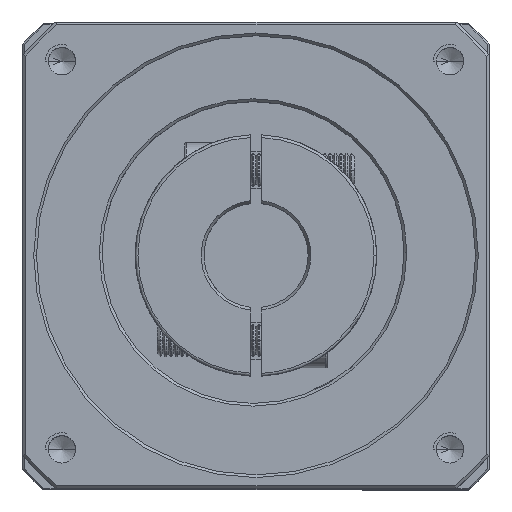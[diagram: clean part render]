
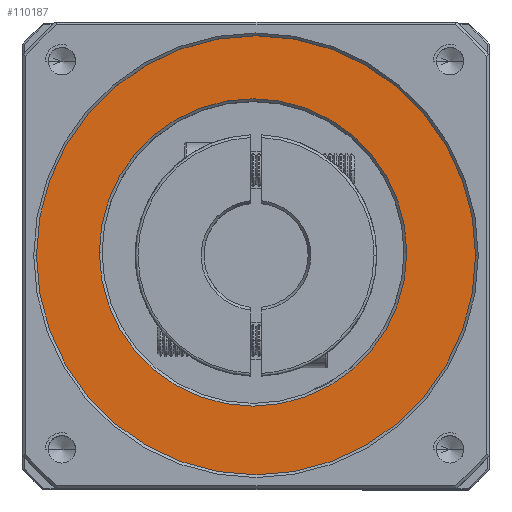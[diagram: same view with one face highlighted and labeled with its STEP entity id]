
A CAD part, top view. The second image highlights one B-rep face of the part: STEP entity #110187.
In plain terms, the highlighted planar face has unit normal (0, 0, 1).
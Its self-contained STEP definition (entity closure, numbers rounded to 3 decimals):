
#3871 = EDGE_LOOP ( 'NONE', ( #57286, #36395 ) ) ;
#5507 = EDGE_CURVE ( 'NONE', #20855, #34128, #44797, .T. ) ;
#10218 = DIRECTION ( 'NONE',  ( 0., 0., -1. ) ) ;
#10391 = CARTESIAN_POINT ( 'NONE',  ( -88.799, 25.942, 11.032 ) ) ;
#10466 = CARTESIAN_POINT ( 'NONE',  ( -60.257, 25.408, 11.032 ) ) ;
#13275 = EDGE_CURVE ( 'NONE', #34128, #20855, #69317, .T. ) ;
#16489 = CARTESIAN_POINT ( 'NONE',  ( -100.257, 25.408, 11.032 ) ) ;
#16820 = VERTEX_POINT ( 'NONE', #10391 ) ;
#18407 = DIRECTION ( 'NONE',  ( 0., 0., 1. ) ) ;
#18804 = DIRECTION ( 'NONE',  ( 1., 0., 0. ) ) ;
#20855 = VERTEX_POINT ( 'NONE', #67416 ) ;
#21984 = CARTESIAN_POINT ( 'NONE',  ( -32.799, 25.942, 11.032 ) ) ;
#26146 = CIRCLE ( 'NONE', #39974, 28. ) ;
#27127 = CARTESIAN_POINT ( 'NONE',  ( -60.257, 25.408, 11.032 ) ) ;
#28339 = DIRECTION ( 'NONE',  ( 0., 0., 1. ) ) ;
#28943 = DIRECTION ( 'NONE',  ( 1., 0., 0. ) ) ;
#34128 = VERTEX_POINT ( 'NONE', #16489 ) ;
#34519 = CARTESIAN_POINT ( 'NONE',  ( -60.799, 25.942, 11.032 ) ) ;
#34920 = EDGE_LOOP ( 'NONE', ( #40820, #56849 ) ) ;
#36395 = ORIENTED_EDGE ( 'NONE', *, *, #120610, .T. ) ;
#39974 = AXIS2_PLACEMENT_3D ( 'NONE', #34519, #43298, #101145 ) ;
#40820 = ORIENTED_EDGE ( 'NONE', *, *, #5507, .T. ) ;
#43298 = DIRECTION ( 'NONE',  ( 0., 0., -1. ) ) ;
#44797 = CIRCLE ( 'NONE', #61552, 40. ) ;
#46263 = PLANE ( 'NONE',  #75186 ) ;
#49485 = VERTEX_POINT ( 'NONE', #21984 ) ;
#53062 = CIRCLE ( 'NONE', #117715, 28. ) ;
#53889 = FACE_OUTER_BOUND ( 'NONE', #34920, .T. ) ;
#56849 = ORIENTED_EDGE ( 'NONE', *, *, #13275, .T. ) ;
#57286 = ORIENTED_EDGE ( 'NONE', *, *, #91985, .T. ) ;
#60299 = DIRECTION ( 'NONE',  ( 1., 0., 0. ) ) ;
#61552 = AXIS2_PLACEMENT_3D ( 'NONE', #27127, #28339, #65605 ) ;
#65605 = DIRECTION ( 'NONE',  ( 1., 0., 0. ) ) ;
#67416 = CARTESIAN_POINT ( 'NONE',  ( -20.257, 25.408, 11.032 ) ) ;
#69317 = CIRCLE ( 'NONE', #73712, 40. ) ;
#73712 = AXIS2_PLACEMENT_3D ( 'NONE', #10466, #18407, #18804 ) ;
#75186 = AXIS2_PLACEMENT_3D ( 'NONE', #119882, #84785, #60299 ) ;
#76925 = CARTESIAN_POINT ( 'NONE',  ( -60.799, 25.942, 11.032 ) ) ;
#77616 = FACE_BOUND ( 'NONE', #3871, .T. ) ;
#84785 = DIRECTION ( 'NONE',  ( 0., 0., 1. ) ) ;
#91985 = EDGE_CURVE ( 'NONE', #49485, #16820, #26146, .T. ) ;
#101145 = DIRECTION ( 'NONE',  ( 1., 0., 0. ) ) ;
#110187 = ADVANCED_FACE ( 'NONE', ( #53889, #77616 ), #46263, .T. ) ;
#117715 = AXIS2_PLACEMENT_3D ( 'NONE', #76925, #10218, #28943 ) ;
#119882 = CARTESIAN_POINT ( 'NONE',  ( -60.257, 25.408, 11.032 ) ) ;
#120610 = EDGE_CURVE ( 'NONE', #16820, #49485, #53062, .T. ) ;
